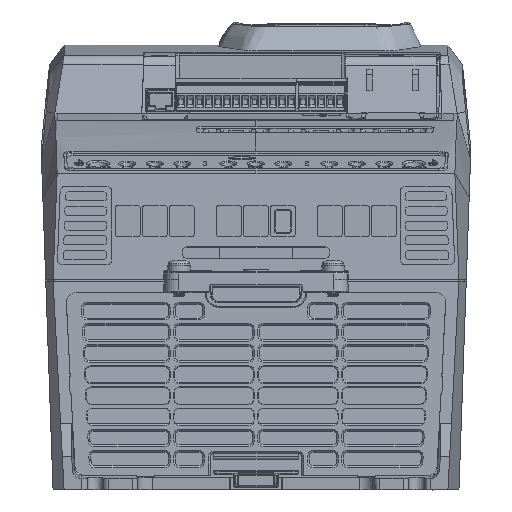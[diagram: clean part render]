
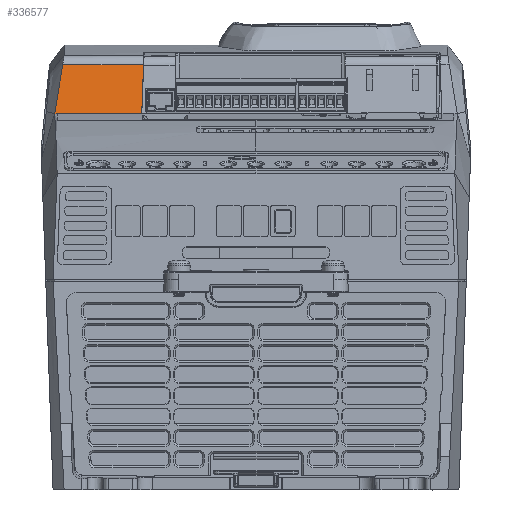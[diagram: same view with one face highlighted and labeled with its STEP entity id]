
A CAD part, front view. The second image highlights one B-rep face of the part: STEP entity #336577.
In plain terms, the highlighted planar face has unit normal (0, -0.984, 0.178).
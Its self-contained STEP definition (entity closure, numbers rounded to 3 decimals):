
#8486 = VECTOR ( 'NONE', #256510, 1000. ) ;
#13004 = AXIS2_PLACEMENT_3D ( 'NONE', #251571, #162453, #156716 ) ;
#20649 = CARTESIAN_POINT ( 'NONE',  ( -108.589, -65.692, 71.165 ) ) ;
#24673 = EDGE_CURVE ( 'NONE', #31836, #153434, #47325, .T. ) ;
#26187 = CARTESIAN_POINT ( 'NONE',  ( -61.911, -61.738, 93.03 ) ) ;
#31836 = VERTEX_POINT ( 'NONE', #215308 ) ;
#32180 = CARTESIAN_POINT ( 'NONE',  ( -107.932, -63.287, 84.462 ) ) ;
#34593 = ORIENTED_EDGE ( 'NONE', *, *, #317695, .T. ) ;
#47325 = LINE ( 'NONE', #308819, #8486 ) ;
#47941 = CARTESIAN_POINT ( 'NONE',  ( -108.249, -63.635, 82.539 ) ) ;
#54155 = EDGE_CURVE ( 'NONE', #327078, #133701, #55262, .T. ) ;
#55262 = B_SPLINE_CURVE_WITH_KNOTS ( 'NONE', 3,
 ( #68980, #249065, #367163, #187099 ),
 .UNSPECIFIED., .F., .F.,
 ( 4, 4 ),
 ( 0., 0.032 ),
 .UNSPECIFIED. ) ;
#56879 = B_SPLINE_CURVE_WITH_KNOTS ( 'NONE', 3,
 ( #185610, #332793, #212741, #69367 ),
 .UNSPECIFIED., .F., .F.,
 ( 4, 4 ),
 ( 0., 1. ),
 .UNSPECIFIED. ) ;
#68980 = CARTESIAN_POINT ( 'NONE',  ( -110.123, -65.692, 71.166 ) ) ;
#69367 = CARTESIAN_POINT ( 'NONE',  ( -108.589, -65.692, 71.165 ) ) ;
#76968 = CARTESIAN_POINT ( 'NONE',  ( -109.457, -64.961, 75.206 ) ) ;
#83671 = LINE ( 'NONE', #172772, #365877 ) ;
#86476 = CARTESIAN_POINT ( 'NONE',  ( -107.932, -63.288, 84.461 ) ) ;
#99600 = VERTEX_POINT ( 'NONE', #108939 ) ;
#102523 = EDGE_CURVE ( 'NONE', #218165, #99600, #83671, .T. ) ;
#108939 = CARTESIAN_POINT ( 'NONE',  ( -62.731, -65.692, 71.165 ) ) ;
#117441 = CARTESIAN_POINT ( 'NONE',  ( -107.932, -63.288, 84.458 ) ) ;
#133701 = VERTEX_POINT ( 'NONE', #20649 ) ;
#140465 = ORIENTED_EDGE ( 'NONE', *, *, #261173, .F. ) ;
#140543 = CARTESIAN_POINT ( 'NONE',  ( -61.984, -62.165, 90.668 ) ) ;
#150301 = CARTESIAN_POINT ( 'NONE',  ( -107.932, -63.287, 84.463 ) ) ;
#150334 = CARTESIAN_POINT ( 'NONE',  ( -110.123, -65.692, 71.166 ) ) ;
#151089 = ORIENTED_EDGE ( 'NONE', *, *, #350096, .T. ) ;
#153434 = VERTEX_POINT ( 'NONE', #257891 ) ;
#154516 = CARTESIAN_POINT ( 'NONE',  ( -61.858, -60.883, 97.756 ) ) ;
#154937 = B_SPLINE_CURVE_WITH_KNOTS ( 'NONE', 3,
 ( #342317, #76968, #195138, #313295, #47941, #257108, #262771, #233733, #239444, #353719, #322768, #295621, #117441, #86476, #208439, #266541, #150301, #32180, #173696, #268437, #235634 ),
 .UNSPECIFIED., .F., .F.,
 ( 4, 2, 2, 1, 1, 1, 1, 1, 1, 1, 1, 1, 2, 2, 4 ),
 ( 0., 0.25, 0.375, 0.437, 0.469, 0.484, 0.492, 0.496, 0.498, 0.499, 0.5, 0.5, 0.5, 0.5, 1. ),
 .UNSPECIFIED. ) ;
#156716 = DIRECTION ( 'NONE',  ( 0., -0.178, -0.984 ) ) ;
#157664 = ORIENTED_EDGE ( 'NONE', *, *, #102523, .F. ) ;
#159507 = ORIENTED_EDGE ( 'NONE', *, *, #24673, .F. ) ;
#160373 = EDGE_CURVE ( 'NONE', #99600, #133701, #56879, .T. ) ;
#162453 = DIRECTION ( 'NONE',  ( 0., -0.984, 0.178 ) ) ;
#162532 = B_SPLINE_CURVE_WITH_KNOTS ( 'NONE', 3,
 ( #140543, #260616, #26187, #264385, #227766, #169628 ),
 .UNSPECIFIED., .F., .F.,
 ( 4, 2, 4 ),
 ( 0.025, 0.029, 0.032 ),
 .UNSPECIFIED. ) ;
#169628 = CARTESIAN_POINT ( 'NONE',  ( -61.858, -60.884, 97.754 ) ) ;
#172772 = CARTESIAN_POINT ( 'NONE',  ( -61.951, -62.012, 91.514 ) ) ;
#173696 = CARTESIAN_POINT ( 'NONE',  ( -106.841, -62.09, 91.08 ) ) ;
#180708 = CARTESIAN_POINT ( 'NONE',  ( -61.858, -60.884, 97.754 ) ) ;
#183554 = CARTESIAN_POINT ( 'NONE',  ( -61.858, -60.883, 97.759 ) ) ;
#185610 = CARTESIAN_POINT ( 'NONE',  ( -62.731, -65.692, 71.165 ) ) ;
#187099 = CARTESIAN_POINT ( 'NONE',  ( -108.589, -65.692, 71.165 ) ) ;
#187613 = B_SPLINE_CURVE_WITH_KNOTS ( 'NONE', 3,
 ( #307404, #154516, #183554, #245523 ),
 .UNSPECIFIED., .F., .F.,
 ( 4, 4 ),
 ( 0., 0. ),
 .UNSPECIFIED. ) ;
#195138 = CARTESIAN_POINT ( 'NONE',  ( -108.941, -64.396, 78.335 ) ) ;
#208439 = CARTESIAN_POINT ( 'NONE',  ( -107.932, -63.287, 84.462 ) ) ;
#212741 = CARTESIAN_POINT ( 'NONE',  ( -93.303, -65.692, 71.165 ) ) ;
#215308 = CARTESIAN_POINT ( 'NONE',  ( -105.741, -60.882, 97.761 ) ) ;
#218165 = VERTEX_POINT ( 'NONE', #334856 ) ;
#227766 = CARTESIAN_POINT ( 'NONE',  ( -61.869, -61.097, 96.573 ) ) ;
#228959 = EDGE_LOOP ( 'NONE', ( #159507, #140465, #320403, #250838, #157664, #151089, #34593 ) ) ;
#233733 = CARTESIAN_POINT ( 'NONE',  ( -107.968, -63.327, 84.242 ) ) ;
#235634 = CARTESIAN_POINT ( 'NONE',  ( -105.741, -60.882, 97.761 ) ) ;
#239444 = CARTESIAN_POINT ( 'NONE',  ( -107.948, -63.305, 84.365 ) ) ;
#245523 = CARTESIAN_POINT ( 'NONE',  ( -61.858, -60.882, 97.761 ) ) ;
#249065 = CARTESIAN_POINT ( 'NONE',  ( -109.611, -65.692, 71.165 ) ) ;
#250838 = ORIENTED_EDGE ( 'NONE', *, *, #160373, .F. ) ;
#251571 = CARTESIAN_POINT ( 'NONE',  ( 119.5, -65.692, 71.165 ) ) ;
#256510 = DIRECTION ( 'NONE',  ( 1., 0., 0. ) ) ;
#257108 = CARTESIAN_POINT ( 'NONE',  ( -108.087, -63.458, 83.517 ) ) ;
#257891 = CARTESIAN_POINT ( 'NONE',  ( -61.858, -60.882, 97.761 ) ) ;
#260616 = CARTESIAN_POINT ( 'NONE',  ( -61.938, -61.952, 91.849 ) ) ;
#261173 = EDGE_CURVE ( 'NONE', #327078, #31836, #154937, .T. ) ;
#262771 = CARTESIAN_POINT ( 'NONE',  ( -108.021, -63.385, 83.921 ) ) ;
#264385 = CARTESIAN_POINT ( 'NONE',  ( -61.876, -61.311, 95.392 ) ) ;
#266541 = CARTESIAN_POINT ( 'NONE',  ( -107.932, -63.287, 84.462 ) ) ;
#268437 = CARTESIAN_POINT ( 'NONE',  ( -106.111, -61.289, 95.513 ) ) ;
#278653 = PLANE ( 'NONE',  #13004 ) ;
#295621 = CARTESIAN_POINT ( 'NONE',  ( -107.933, -63.289, 84.452 ) ) ;
#307404 = CARTESIAN_POINT ( 'NONE',  ( -61.858, -60.884, 97.754 ) ) ;
#308819 = CARTESIAN_POINT ( 'NONE',  ( -105.741, -60.882, 97.761 ) ) ;
#313295 = CARTESIAN_POINT ( 'NONE',  ( -108.394, -63.794, 81.659 ) ) ;
#315622 = VERTEX_POINT ( 'NONE', #180708 ) ;
#317695 = EDGE_CURVE ( 'NONE', #315622, #153434, #187613, .T. ) ;
#318079 = DIRECTION ( 'NONE',  ( -0.038, -0.178, -0.983 ) ) ;
#320403 = ORIENTED_EDGE ( 'NONE', *, *, #54155, .T. ) ;
#322768 = CARTESIAN_POINT ( 'NONE',  ( -107.935, -63.291, 84.441 ) ) ;
#327078 = VERTEX_POINT ( 'NONE', #150334 ) ;
#332793 = CARTESIAN_POINT ( 'NONE',  ( -78.017, -65.692, 71.165 ) ) ;
#334856 = CARTESIAN_POINT ( 'NONE',  ( -61.984, -62.165, 90.668 ) ) ;
#336577 = ADVANCED_FACE ( 'NONE', ( #365832 ), #278653, .T. ) ;
#342317 = CARTESIAN_POINT ( 'NONE',  ( -110.123, -65.692, 71.166 ) ) ;
#350096 = EDGE_CURVE ( 'NONE', #218165, #315622, #162532, .T. ) ;
#353719 = CARTESIAN_POINT ( 'NONE',  ( -107.939, -63.295, 84.417 ) ) ;
#365832 = FACE_OUTER_BOUND ( 'NONE', #228959, .T. ) ;
#365877 = VECTOR ( 'NONE', #318079, 1000. ) ;
#367163 = CARTESIAN_POINT ( 'NONE',  ( -109.1, -65.692, 71.165 ) ) ;
